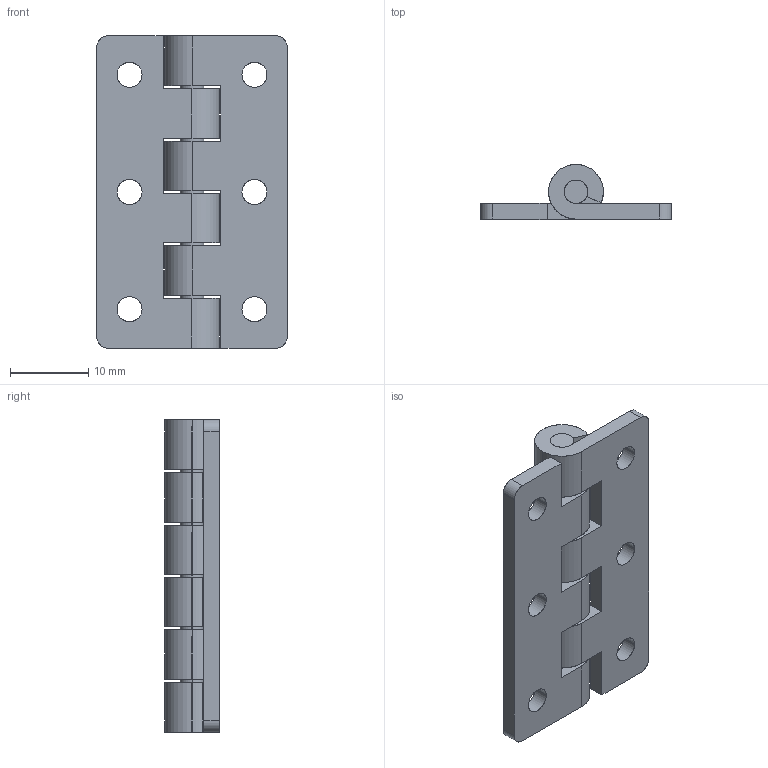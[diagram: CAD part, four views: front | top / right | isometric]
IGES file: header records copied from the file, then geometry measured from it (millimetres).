
Start section: SolidWorks IGES file using analytic representation for surfaces
Global section: file name: Z:\Mes documents\ATAO iges\Gamme CL\CL 420\CL 420.IGS; native system: SolidWorks 2008; preprocessor: SolidWorks 2008; author: cbrechard; date: 110628.182654; units: millimetre
Bounding box: 24.4 x 7 x 40 mm (x, y, z)
Surface area: 3805.2 mm2 (no closed solid volume)
Topology: 0 solids, 0 shells, 88 faces, 1520 edges, 1520 vertices
Faces by surface type: revolution 54, bspline 34
